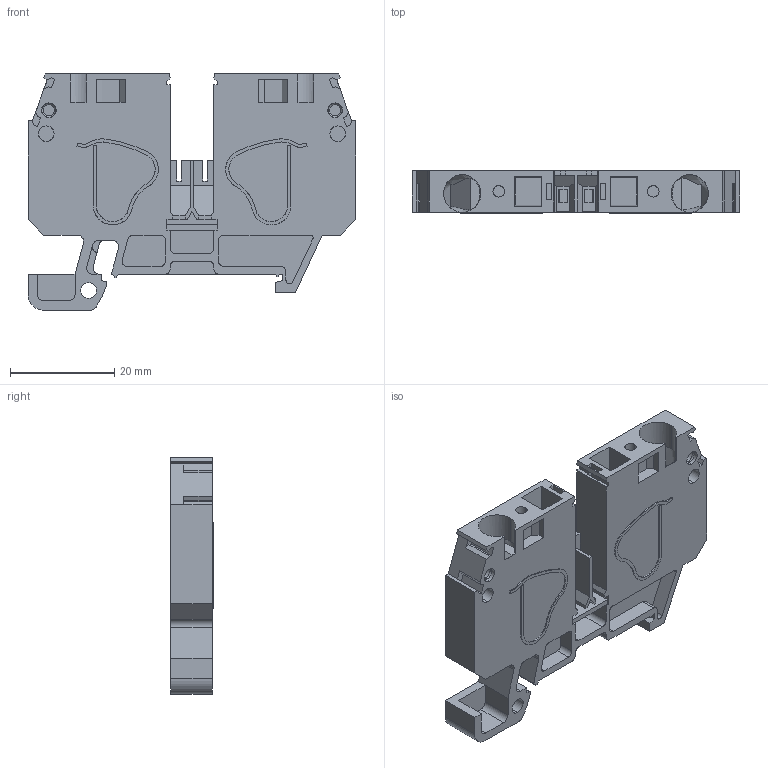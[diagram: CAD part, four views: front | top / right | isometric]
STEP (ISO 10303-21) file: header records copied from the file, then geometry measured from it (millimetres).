
FILE_DESCRIPTION (( 'STEP AP214' ), '1' );
FILE_NAME ('42411_EURO Q6_35.STEP', '2021-03-26T09:51:22', ( '' ), ( '' ), 'SwSTEP 2.0', 'SolidWorks 2020', '' );
FILE_SCHEMA (( 'AUTOMOTIVE_DESIGN' ));
Length unit declared in the file: millimetre
Products named in the file (1): 42411_EURO Q6_35
Bounding box: 63 x 8.2 x 45.4 mm (x, y, z)
Volume: 13828.2 mm3; surface area: 8906 mm2
Topology: 1 solids, 1 shells, 371 faces, 1036 edges, 683 vertices
Faces by surface type: plane 255, cylinder 100, bspline 12, cone 4
Entity records: 13597 total; most frequent: CARTESIAN_POINT 4252, ORIENTED_EDGE 2072, DIRECTION 1713, EDGE_CURVE 1036, VECTOR 757, LINE 757, VERTEX_POINT 683, AXIS2_PLACEMENT_3D 478
